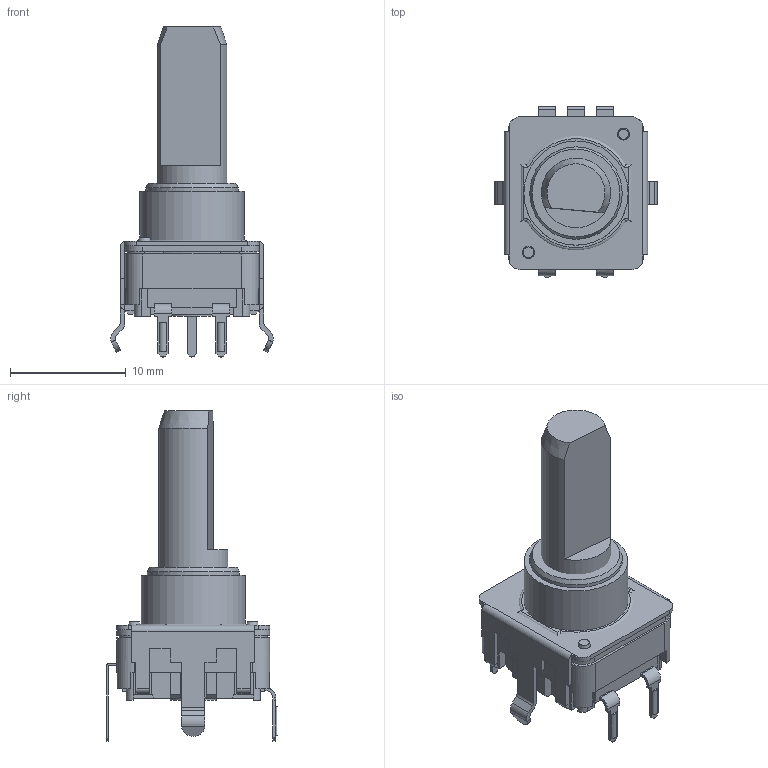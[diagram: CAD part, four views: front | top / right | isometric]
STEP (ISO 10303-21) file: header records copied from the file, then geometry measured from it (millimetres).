
FILE_DESCRIPTION(/* description */ (''),/* implementation_level */ '2;1');
FILE_NAME(/* name */ '\\Forward-ks-ad\開發專區\\X2\9AD896C45EE08A2D8A088AB2\X0\\設計機種開發作業\\X2\91CF75226A5F7A2E5C086848\X0\\ENCODER\機種開發\Encoder\DC12K\3D\CTS\DC12S12208F231.stp',/* time_stamp */ '2020-06-17T11:17:47+08:00',/* author */ ('jia'),/* organization */ (''),/* preprocessor_version */ 'ST-DEVELOPER v15.2',/* originating_system */ 'Autodesk Inventor 2014',/* authorisation */ '');
FILE_SCHEMA (('AUTOMOTIVE_DESIGN { 1 0 10303 214 3 1 1 }'));
Length unit declared in the file: millimetre
Products named in the file (1): 組合1_Shrinkwrap_1
Bounding box: 14.05 x 14.76 x 28.5 mm (x, y, z)
Surface area: 2190.5 mm2 (no closed solid volume)
Topology: 0 solids, 23 shells, 317 faces, 944 edges, 632 vertices
Faces by surface type: plane 246, cylinder 65, cone 4, torus 2
Full cylindrical faces by diameter (mm): 4 x1, 6 x1, 7.98 x1, 9 x1
Entity records: 10491 total; most frequent: CARTESIAN_POINT 1961, DIRECTION 1754, ORIENTED_EDGE 1619, EDGE_CURVE 936, LINE 734, VECTOR 734, VERTEX_POINT 631, AXIS2_PLACEMENT_3D 510
